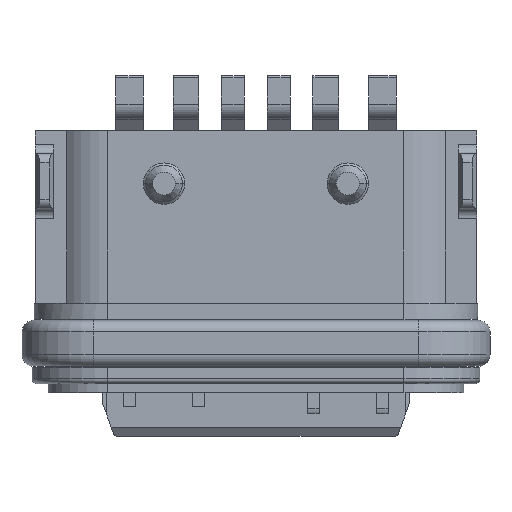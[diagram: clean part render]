
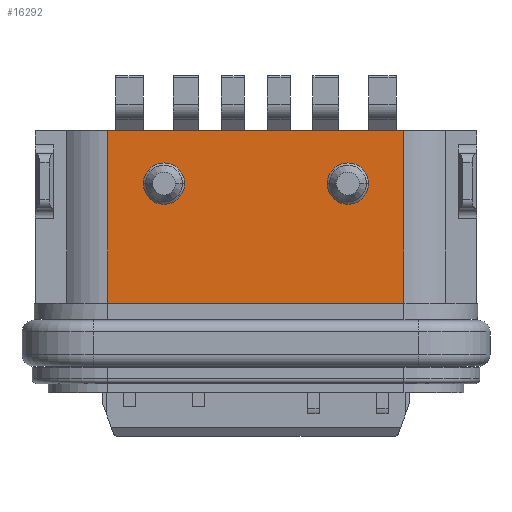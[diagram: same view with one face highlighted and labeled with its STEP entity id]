
A CAD part, front view. The second image highlights one B-rep face of the part: STEP entity #16292.
In plain terms, the highlighted planar face has unit normal (0, -1, 0).
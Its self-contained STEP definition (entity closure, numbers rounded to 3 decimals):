
#139 = CARTESIAN_POINT ( 'NONE',  ( 28., -1.58, 5.9 ) ) ;
#194 = CARTESIAN_POINT ( 'NONE',  ( 32., -1.58, 5.9 ) ) ;
#214 = CARTESIAN_POINT ( 'NONE',  ( 33.22, -1.58, 7.05 ) ) ;
#916 = EDGE_CURVE ( 'NONE', #14555, #13428, #18792, .T. ) ;
#1708 = CARTESIAN_POINT ( 'NONE',  ( 27.55, -1.58, 5.9 ) ) ;
#2054 = ORIENTED_EDGE ( 'NONE', *, *, #10814, .F. ) ;
#2144 = CARTESIAN_POINT ( 'NONE',  ( 26.78, -1.58, 7.05 ) ) ;
#2282 = CARTESIAN_POINT ( 'NONE',  ( 26.78, -1.58, 7.05 ) ) ;
#2342 = CARTESIAN_POINT ( 'NONE',  ( 28., -1.58, 5.9 ) ) ;
#2883 = LINE ( 'NONE', #9079, #8318 ) ;
#2915 = FACE_OUTER_BOUND ( 'NONE', #13239, .T. ) ;
#4310 = ORIENTED_EDGE ( 'NONE', *, *, #27059, .F. ) ;
#4312 = CARTESIAN_POINT ( 'NONE',  ( 33.22, -1.58, 3.3 ) ) ;
#4410 = DIRECTION ( 'NONE',  ( 0., 0., -1. ) ) ;
#4810 = AXIS2_PLACEMENT_3D ( 'NONE', #139, #25033, #9033 ) ;
#4978 = VERTEX_POINT ( 'NONE', #1708 ) ;
#5000 = DIRECTION ( 'NONE',  ( 1., 0., 0. ) ) ;
#6539 = EDGE_LOOP ( 'NONE', ( #10455, #17583 ) ) ;
#6982 = VECTOR ( 'NONE', #19198, 1000. ) ;
#7009 = AXIS2_PLACEMENT_3D ( 'NONE', #15182, #19180, #23315 ) ;
#7015 = DIRECTION ( 'NONE',  ( 0., 0., 1. ) ) ;
#7506 = CIRCLE ( 'NONE', #14525, 0.45 ) ;
#7611 = ORIENTED_EDGE ( 'NONE', *, *, #24793, .T. ) ;
#8318 = VECTOR ( 'NONE', #7015, 1000. ) ;
#8411 = LINE ( 'NONE', #10206, #15282 ) ;
#9029 = VERTEX_POINT ( 'NONE', #12638 ) ;
#9033 = DIRECTION ( 'NONE',  ( 1., 0., 0. ) ) ;
#9079 = CARTESIAN_POINT ( 'NONE',  ( 33.22, -1.58, 3.3 ) ) ;
#9194 = ORIENTED_EDGE ( 'NONE', *, *, #27127, .F. ) ;
#9401 = FACE_BOUND ( 'NONE', #12967, .T. ) ;
#10050 = ORIENTED_EDGE ( 'NONE', *, *, #916, .F. ) ;
#10206 = CARTESIAN_POINT ( 'NONE',  ( 26.78, -1.58, 7.05 ) ) ;
#10432 = EDGE_CURVE ( 'NONE', #15633, #4978, #24164, .T. ) ;
#10455 = ORIENTED_EDGE ( 'NONE', *, *, #11490, .F. ) ;
#10814 = EDGE_CURVE ( 'NONE', #9029, #14654, #22382, .T. ) ;
#10903 = DIRECTION ( 'NONE',  ( -1., 0., 0. ) ) ;
#11456 = PLANE ( 'NONE',  #25456 ) ;
#11490 = EDGE_CURVE ( 'NONE', #4978, #15633, #26394, .T. ) ;
#12638 = CARTESIAN_POINT ( 'NONE',  ( 32.45, -1.58, 5.9 ) ) ;
#12967 = EDGE_LOOP ( 'NONE', ( #9194, #2054 ) ) ;
#13116 = CARTESIAN_POINT ( 'NONE',  ( 31.55, -1.58, 5.9 ) ) ;
#13229 = ORIENTED_EDGE ( 'NONE', *, *, #16687, .T. ) ;
#13239 = EDGE_LOOP ( 'NONE', ( #4310, #13229, #10050, #7611 ) ) ;
#13428 = VERTEX_POINT ( 'NONE', #214 ) ;
#13791 = FACE_BOUND ( 'NONE', #6539, .T. ) ;
#14525 = AXIS2_PLACEMENT_3D ( 'NONE', #194, #15289, #19441 ) ;
#14555 = VERTEX_POINT ( 'NONE', #2282 ) ;
#14654 = VERTEX_POINT ( 'NONE', #13116 ) ;
#15182 = CARTESIAN_POINT ( 'NONE',  ( 32., -1.58, 5.9 ) ) ;
#15282 = VECTOR ( 'NONE', #4410, 1000. ) ;
#15289 = DIRECTION ( 'NONE',  ( 0., -1., 0. ) ) ;
#15633 = VERTEX_POINT ( 'NONE', #22409 ) ;
#16114 = VERTEX_POINT ( 'NONE', #21365 ) ;
#16292 = ADVANCED_FACE ( 'NONE', ( #9401, #13791, #2915 ), #11456, .F. ) ;
#16687 = EDGE_CURVE ( 'NONE', #16114, #13428, #2883, .T. ) ;
#16992 = CARTESIAN_POINT ( 'NONE',  ( 26.78, -1.58, 3.3 ) ) ;
#17583 = ORIENTED_EDGE ( 'NONE', *, *, #10432, .F. ) ;
#17782 = CARTESIAN_POINT ( 'NONE',  ( 30., -1.58, 5.175 ) ) ;
#18195 = DIRECTION ( 'NONE',  ( 0., 1., 0. ) ) ;
#18792 = LINE ( 'NONE', #2144, #6982 ) ;
#19180 = DIRECTION ( 'NONE',  ( 0., -1., 0. ) ) ;
#19198 = DIRECTION ( 'NONE',  ( 1., 0., 0. ) ) ;
#19441 = DIRECTION ( 'NONE',  ( 1., 0., 0. ) ) ;
#21365 = CARTESIAN_POINT ( 'NONE',  ( 33.22, -1.58, 3.3 ) ) ;
#21640 = LINE ( 'NONE', #4312, #25949 ) ;
#22382 = CIRCLE ( 'NONE', #7009, 0.45 ) ;
#22409 = CARTESIAN_POINT ( 'NONE',  ( 28.45, -1.58, 5.9 ) ) ;
#23315 = DIRECTION ( 'NONE',  ( 1., 0., 0. ) ) ;
#23516 = DIRECTION ( 'NONE',  ( 1., 0., 0. ) ) ;
#23746 = AXIS2_PLACEMENT_3D ( 'NONE', #2342, #25443, #23516 ) ;
#24164 = CIRCLE ( 'NONE', #4810, 0.45 ) ;
#24793 = EDGE_CURVE ( 'NONE', #14555, #25595, #8411, .T. ) ;
#25033 = DIRECTION ( 'NONE',  ( 0., -1., 0. ) ) ;
#25443 = DIRECTION ( 'NONE',  ( 0., -1., 0. ) ) ;
#25456 = AXIS2_PLACEMENT_3D ( 'NONE', #17782, #18195, #5000 ) ;
#25595 = VERTEX_POINT ( 'NONE', #16992 ) ;
#25949 = VECTOR ( 'NONE', #10903, 1000. ) ;
#26394 = CIRCLE ( 'NONE', #23746, 0.45 ) ;
#27059 = EDGE_CURVE ( 'NONE', #16114, #25595, #21640, .T. ) ;
#27127 = EDGE_CURVE ( 'NONE', #14654, #9029, #7506, .T. ) ;
